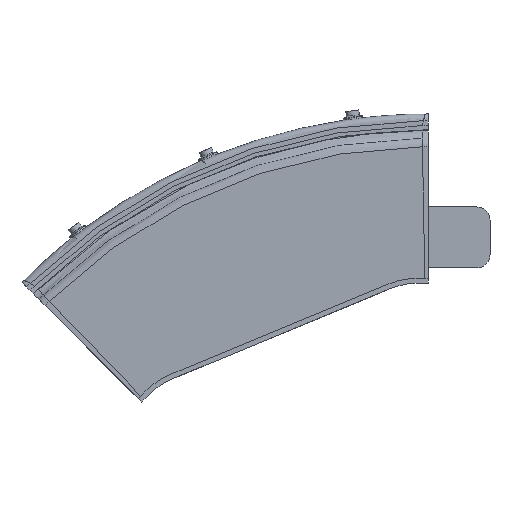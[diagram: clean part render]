
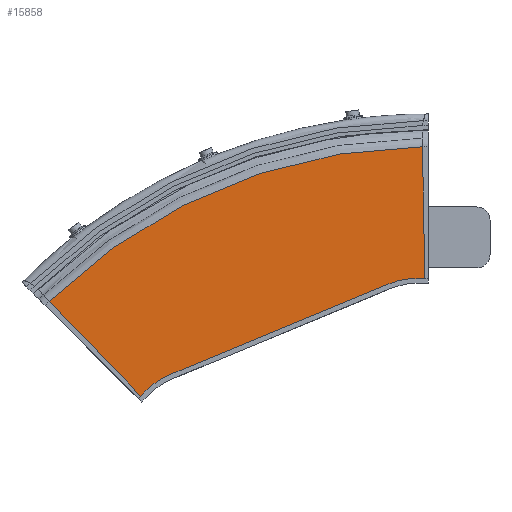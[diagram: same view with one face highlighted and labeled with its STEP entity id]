
A CAD part, left-side view. The second image highlights one B-rep face of the part: STEP entity #15858.
In plain terms, the highlighted planar face has unit normal (-1, 0, 0).
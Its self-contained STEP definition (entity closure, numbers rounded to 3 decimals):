
#813=PLANE('',#16704);
#2162=FACE_OUTER_BOUND('',#3100,.T.);
#3100=EDGE_LOOP('',(#14405,#14406,#14407,#14408,#14409,#14410,#14411,#14412));
#4658=LINE('',#28017,#6206);
#4660=LINE('',#28209,#6208);
#4661=LINE('',#28213,#6209);
#4662=LINE('',#28217,#6210);
#4663=LINE('',#28218,#6211);
#6206=VECTOR('',#19834,10.);
#6208=VECTOR('',#19846,10.);
#6209=VECTOR('',#19849,10.);
#6210=VECTOR('',#19852,10.);
#6211=VECTOR('',#19853,10.);
#6433=CIRCLE('',#16705,43.);
#6434=CIRCLE('',#16706,43.);
#6435=CIRCLE('',#16707,329.418);
#7882=VERTEX_POINT('',#28015);
#7883=VERTEX_POINT('',#28016);
#7892=VERTEX_POINT('',#28186);
#7894=VERTEX_POINT('',#28208);
#7895=VERTEX_POINT('',#28210);
#7896=VERTEX_POINT('',#28212);
#7897=VERTEX_POINT('',#28214);
#7898=VERTEX_POINT('',#28216);
#10070=EDGE_CURVE('',#7882,#7883,#4658,.T.);
#10086=EDGE_CURVE('',#7894,#7883,#4660,.T.);
#10087=EDGE_CURVE('',#7895,#7894,#6433,.T.);
#10088=EDGE_CURVE('',#7896,#7895,#4661,.T.);
#10089=EDGE_CURVE('',#7897,#7896,#6434,.T.);
#10090=EDGE_CURVE('',#7898,#7897,#4662,.T.);
#10091=EDGE_CURVE('',#7892,#7898,#4663,.T.);
#10092=EDGE_CURVE('',#7892,#7882,#6435,.T.);
#14405=ORIENTED_EDGE('',*,*,#10070,.T.);
#14406=ORIENTED_EDGE('',*,*,#10086,.F.);
#14407=ORIENTED_EDGE('',*,*,#10087,.F.);
#14408=ORIENTED_EDGE('',*,*,#10088,.F.);
#14409=ORIENTED_EDGE('',*,*,#10089,.F.);
#14410=ORIENTED_EDGE('',*,*,#10090,.F.);
#14411=ORIENTED_EDGE('',*,*,#10091,.F.);
#14412=ORIENTED_EDGE('',*,*,#10092,.T.);
#15858=ADVANCED_FACE('',(#2162),#813,.F.);
#16704=AXIS2_PLACEMENT_3D('',#28207,#19844,#19845);
#16705=AXIS2_PLACEMENT_3D('',#28211,#19847,#19848);
#16706=AXIS2_PLACEMENT_3D('',#28215,#19850,#19851);
#16707=AXIS2_PLACEMENT_3D('',#28219,#19854,#19855);
#19834=DIRECTION('',(0.,-0.695,-0.719));
#19844=DIRECTION('center_axis',(1.,0.,0.));
#19845=DIRECTION('ref_axis',(0.,0.,-1.));
#19846=DIRECTION('',(0.,0.707,-0.707));
#19847=DIRECTION('center_axis',(-1.,0.,0.));
#19848=DIRECTION('ref_axis',(0.,-0.707,-0.707));
#19849=DIRECTION('',(0.,0.924,-0.383));
#19850=DIRECTION('center_axis',(-1.,0.,0.));
#19851=DIRECTION('ref_axis',(0.,-0.383,-0.924));
#19852=DIRECTION('',(0.,1.,0.));
#19853=DIRECTION('',(0.,-0.017,-1.));
#19854=DIRECTION('center_axis',(-1.,0.,0.));
#19855=DIRECTION('ref_axis',(0.,0.005,1.));
#28015=CARTESIAN_POINT('',(-17.,230.41,235.43));
#28016=CARTESIAN_POINT('',(-17.,174.767,177.81));
#28017=CARTESIAN_POINT('',(-17.,172.766,175.739));
#28186=CARTESIAN_POINT('',(-17.,3.55,329.399));
#28207=CARTESIAN_POINT('Origin',(-17.,162.761,184.342));
#28208=CARTESIAN_POINT('',(-17.,171.002,181.576));
#28209=CARTESIAN_POINT('',(-17.,171.955,180.622));
#28210=CARTESIAN_POINT('',(-17.,157.051,190.897));
#28211=CARTESIAN_POINT('Origin',(-17.,140.596,151.17));
#28212=CARTESIAN_POINT('',(-17.,23.932,246.037));
#28213=CARTESIAN_POINT('',(-17.,160.647,189.408));
#28214=CARTESIAN_POINT('',(-17.,7.477,249.31));
#28215=CARTESIAN_POINT('Origin',(-17.,7.477,206.31));
#28216=CARTESIAN_POINT('',(-17.,2.152,249.31));
#28217=CARTESIAN_POINT('',(-17.,82.456,249.31));
#28218=CARTESIAN_POINT('',(-17.,2.399,263.488));
#28219=CARTESIAN_POINT('Origin',(-17.,0.,0.));
